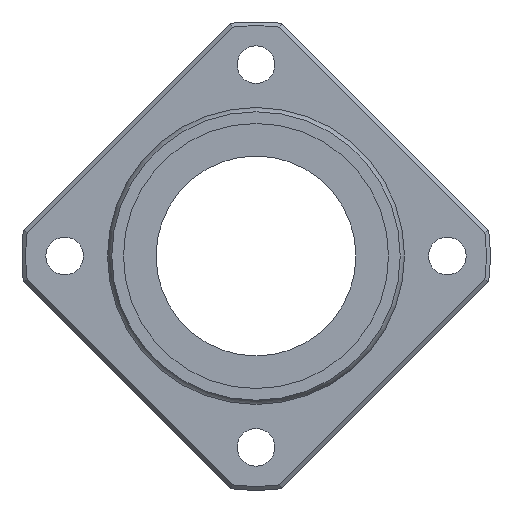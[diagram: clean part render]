
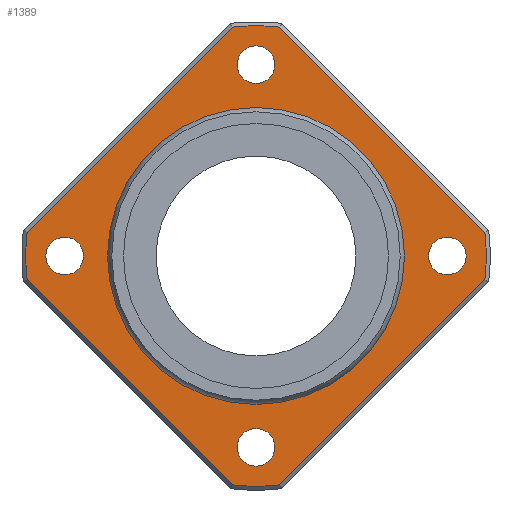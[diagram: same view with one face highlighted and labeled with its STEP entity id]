
A CAD part, left-side view. The second image highlights one B-rep face of the part: STEP entity #1389.
In plain terms, the highlighted planar face has unit normal (-1, 0, 0).
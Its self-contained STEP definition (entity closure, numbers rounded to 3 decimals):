
#965=CARTESIAN_POINT('',(-50.0,40.082,4.183));
#966=VERTEX_POINT('',#965);
#974=CARTESIAN_POINT('',(-50.0,4.183,40.082));
#975=VERTEX_POINT('',#974);
#976=CARTESIAN_POINT('',(-50.0,40.082,4.183));
#977=DIRECTION('',(0.0,-0.707,0.707));
#978=VECTOR('',#977,50.77);
#979=LINE('',#976,#978);
#980=EDGE_CURVE('',#966,#975,#979,.T.);
#1007=CARTESIAN_POINT('',(-50.0,-4.183,40.082));
#1008=VERTEX_POINT('',#1007);
#1009=CARTESIAN_POINT('',(-50.0,0.0,0.0));
#1010=DIRECTION('',(1.0,0.0,0.0));
#1011=DIRECTION('',(0.0,0.0,1.0));
#1012=AXIS2_PLACEMENT_3D('',#1009,#1010,#1011);
#1013=CIRCLE('',#1012,40.3);
#1014=EDGE_CURVE('',#975,#1008,#1013,.T.);
#1040=CARTESIAN_POINT('',(-50.0,-40.082,4.183));
#1041=VERTEX_POINT('',#1040);
#1042=CARTESIAN_POINT('',(-50.0,-4.183,40.082));
#1043=DIRECTION('',(0.0,-0.707,-0.707));
#1044=VECTOR('',#1043,50.77);
#1045=LINE('',#1042,#1044);
#1046=EDGE_CURVE('',#1008,#1041,#1045,.T.);
#1073=CARTESIAN_POINT('',(-50.0,-40.082,-4.183));
#1074=VERTEX_POINT('',#1073);
#1075=CARTESIAN_POINT('',(-50.0,0.0,0.0));
#1076=DIRECTION('',(1.0,0.0,0.0));
#1077=DIRECTION('',(0.0,0.0,1.0));
#1078=AXIS2_PLACEMENT_3D('',#1075,#1076,#1077);
#1079=CIRCLE('',#1078,40.3);
#1080=EDGE_CURVE('',#1041,#1074,#1079,.T.);
#1106=CARTESIAN_POINT('',(-50.0,-4.183,-40.082));
#1107=VERTEX_POINT('',#1106);
#1108=CARTESIAN_POINT('',(-50.0,-40.082,-4.183));
#1109=DIRECTION('',(0.0,0.707,-0.707));
#1110=VECTOR('',#1109,50.77);
#1111=LINE('',#1108,#1110);
#1112=EDGE_CURVE('',#1074,#1107,#1111,.T.);
#1139=CARTESIAN_POINT('',(-50.0,4.183,-40.082));
#1140=VERTEX_POINT('',#1139);
#1141=CARTESIAN_POINT('',(-50.0,0.0,0.0));
#1142=DIRECTION('',(1.0,0.0,0.0));
#1143=DIRECTION('',(0.0,0.0,-1.0));
#1144=AXIS2_PLACEMENT_3D('',#1141,#1142,#1143);
#1145=CIRCLE('',#1144,40.3);
#1146=EDGE_CURVE('',#1107,#1140,#1145,.T.);
#1172=CARTESIAN_POINT('',(-50.0,40.082,-4.183));
#1173=VERTEX_POINT('',#1172);
#1174=CARTESIAN_POINT('',(-50.0,4.183,-40.082));
#1175=DIRECTION('',(0.0,0.707,0.707));
#1176=VECTOR('',#1175,50.77);
#1177=LINE('',#1174,#1176);
#1178=EDGE_CURVE('',#1140,#1173,#1177,.T.);
#1203=CARTESIAN_POINT('',(-50.0,0.0,0.0));
#1204=DIRECTION('',(1.0,0.0,0.0));
#1205=DIRECTION('',(0.0,0.0,1.0));
#1206=AXIS2_PLACEMENT_3D('',#1203,#1204,#1205);
#1207=CIRCLE('',#1206,40.3);
#1208=EDGE_CURVE('',#1173,#966,#1207,.T.);
#1319=CARTESIAN_POINT('',(-50.0,0.0,33.357));
#1320=DIRECTION('',(-1.0,0.0,0.0));
#1321=DIRECTION('',(0.0,0.0,1.0));
#1322=AXIS2_PLACEMENT_3D('',#1319,#1320,#1321);
#1323=PLANE('',#1322);
#1324=ORIENTED_EDGE('',*,*,#980,.F.);
#1325=ORIENTED_EDGE('',*,*,#1208,.F.);
#1326=ORIENTED_EDGE('',*,*,#1178,.F.);
#1327=ORIENTED_EDGE('',*,*,#1146,.F.);
#1328=ORIENTED_EDGE('',*,*,#1112,.F.);
#1329=ORIENTED_EDGE('',*,*,#1080,.F.);
#1330=ORIENTED_EDGE('',*,*,#1046,.F.);
#1331=ORIENTED_EDGE('',*,*,#1014,.F.);
#1332=EDGE_LOOP('',(#1324,#1325,#1326,#1327,#1328,#1329,#1330,#1331));
#1333=FACE_OUTER_BOUND('',#1332,.T.);
#1334=CARTESIAN_POINT('',(-50.0,0.0,25.714));
#1335=VERTEX_POINT('',#1334);
#1336=CARTESIAN_POINT('',(-50.0,0.0,0.0));
#1337=DIRECTION('',(-1.0,0.0,0.0));
#1338=DIRECTION('',(0.0,0.0,1.0));
#1339=AXIS2_PLACEMENT_3D('',#1336,#1337,#1338);
#1340=CIRCLE('',#1339,25.714);
#1341=EDGE_CURVE('',#1335,#1335,#1340,.T.);
#1342=ORIENTED_EDGE('',*,*,#1341,.F.);
#1343=EDGE_LOOP('',(#1342));
#1344=FACE_BOUND('',#1343,.T.);
#1345=CARTESIAN_POINT('',(-50.0,30.2,0.));
#1346=VERTEX_POINT('',#1345);
#1347=CARTESIAN_POINT('',(-50.0,33.5,0.));
#1348=DIRECTION('',(1.0,0.0,0.0));
#1349=DIRECTION('',(0.0,1.0,0.0));
#1350=AXIS2_PLACEMENT_3D('',#1347,#1348,#1349);
#1351=CIRCLE('',#1350,3.3);
#1352=EDGE_CURVE('',#1346,#1346,#1351,.T.);
#1353=ORIENTED_EDGE('',*,*,#1352,.T.);
#1354=EDGE_LOOP('',(#1353));
#1355=FACE_BOUND('',#1354,.T.);
#1356=CARTESIAN_POINT('',(-50.0,-36.8,0.));
#1357=VERTEX_POINT('',#1356);
#1358=CARTESIAN_POINT('',(-50.0,-33.5,0.0));
#1359=DIRECTION('',(1.0,0.0,0.0));
#1360=DIRECTION('',(0.0,1.0,0.0));
#1361=AXIS2_PLACEMENT_3D('',#1358,#1359,#1360);
#1362=CIRCLE('',#1361,3.3);
#1363=EDGE_CURVE('',#1357,#1357,#1362,.T.);
#1364=ORIENTED_EDGE('',*,*,#1363,.T.);
#1365=EDGE_LOOP('',(#1364));
#1366=FACE_BOUND('',#1365,.T.);
#1367=CARTESIAN_POINT('',(-50.0,-3.3,33.5));
#1368=VERTEX_POINT('',#1367);
#1369=CARTESIAN_POINT('',(-50.0,0.,33.5));
#1370=DIRECTION('',(1.0,0.0,0.0));
#1371=DIRECTION('',(0.0,1.0,0.0));
#1372=AXIS2_PLACEMENT_3D('',#1369,#1370,#1371);
#1373=CIRCLE('',#1372,3.3);
#1374=EDGE_CURVE('',#1368,#1368,#1373,.T.);
#1375=ORIENTED_EDGE('',*,*,#1374,.T.);
#1376=EDGE_LOOP('',(#1375));
#1377=FACE_BOUND('',#1376,.T.);
#1378=CARTESIAN_POINT('',(-50.0,-3.3,-33.5));
#1379=VERTEX_POINT('',#1378);
#1380=CARTESIAN_POINT('',(-50.0,0.,-33.5));
#1381=DIRECTION('',(1.0,0.0,0.0));
#1382=DIRECTION('',(0.0,1.0,0.0));
#1383=AXIS2_PLACEMENT_3D('',#1380,#1381,#1382);
#1384=CIRCLE('',#1383,3.3);
#1385=EDGE_CURVE('',#1379,#1379,#1384,.T.);
#1386=ORIENTED_EDGE('',*,*,#1385,.T.);
#1387=EDGE_LOOP('',(#1386));
#1388=FACE_BOUND('',#1387,.T.);
#1389=ADVANCED_FACE('',(#1333,#1344,#1355,#1366,#1377,#1388),#1323,.T.);
